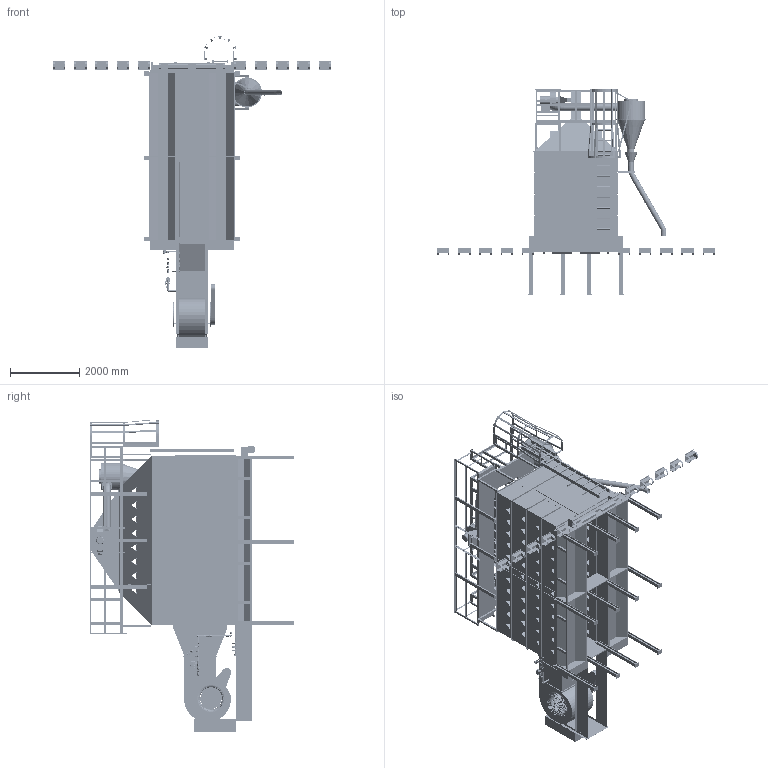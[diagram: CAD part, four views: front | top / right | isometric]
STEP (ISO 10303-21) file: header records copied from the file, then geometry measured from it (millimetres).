
FILE_DESCRIPTION(/* description */ ('PLAN AND ELEVATION VIEW FOR D1660 WITH ROOF & PRE-CLEANER'),/* implementation_level */ '2;1');
FILE_NAME(/* name */ 'C:\Engineering\Designs\Sales\Dryer\Workspaces\D16 All\D1660PC.stp',/* time_stamp */ '2025-01-06T16:40:27-06:00',/* author */ ('max.fleming'),/* organization */ (''),/* preprocessor_version */ 'ST-DEVELOPER v18.1',/* originating_system */ 'Autodesk Inventor 2022',/* authorisation */ '');
FILE_SCHEMA (('AUTOMOTIVE_DESIGN { 1 0 10303 214 3 1 1 }'));
Products named in the file (34): D1660PC; 16FT FRAME; 8FT LHRH FRAME; 16FT ROOF GF; 8FTRoof GF LHRH; Tongue; 16FT BODY TIER; LH Body; RH Body; LH Body_MIR6; RH Body_MIR6; Outside Splice; Standard Size End Plenum Panels; Ladder 2' section; Trans & Blower; Belt Shield; Screen Guard; LP Fuel; 6'' CROSS AUGER; Leg Kit-02; 16FT PRE CLEANER RH DIS; 16FT Pre Cleaner Grav Assy; Aspirator Blower CCW; Aspirator Blower; NEMA MOTOR 182T; 16FT FULL CATWALK W PRE CLEANER MOUNTS; Pre-Cleaner Cyclone; 16FT Aspirator 8in Pipe; 6in PIPE SLEEVE 11L; 6IN ELBOW; 6in PIPE 60L; PIPE SUPPORT; Ladder Cage; 6IN HANGER
Assembly tree (61 placements, depth 4):
  D1660PC
    16FT FRAME
      8FT LHRH FRAME  x2
    16FT ROOF GF
      8FTRoof GF LHRH  x2
    Tongue
    16FT BODY TIER  x4
      LH Body
      RH Body
      LH Body_MIR6
      RH Body_MIR6
      Outside Splice
    Leg Kit-02  x12
    Standard Size End Plenum Panels  x5
    Trans & Blower  x2
    Belt Shield  x2
    Screen Guard  x4
    LP Fuel  x2
    16FT PRE CLEANER RH DIS
      16FT Pre Cleaner Grav Assy
      Aspirator Blower CCW
        Aspirator Blower
        NEMA MOTOR 182T
      16FT FULL CATWALK W PRE CLEANER MOUNTS
      Pre-Cleaner Cyclone
      16FT Aspirator 8in Pipe
    6in PIPE SLEEVE 11L
    6in PIPE 60L  x2
    6IN ELBOW  x2
    6IN HANGER  x2
    PIPE SUPPORT
    Ladder Cage
  Ladder 2' section
  6'' CROSS AUGER
Bounding box: 8007.35 x 5901.14 x 9010.65 mm (x, y, z)
Volume: 30372615561.3 mm3; surface area: 454775333.8 mm2
Topology: 376 solids, 532 shells, 33643 faces, 87487 edges, 55711 vertices
Faces by surface type: plane 14910, cylinder 9981, bspline 3718, cone 3260, torus 1594, sphere 180
Full cylindrical faces by diameter (mm): 1 x10, 1.651 x6, 1.753 x6, 1.778 x12, 2.019 x4, 2.108 x2, 2.286 x24, 2.489 x2, 2.54 x4, 3.091 x288, 3.175 x4, 3.251 x20, 3.306 x288, 3.522 x2, 3.658 x28, 3.8 x16, 4 x384, 4.039 x20, 4.166 x256, 4.191 x4, 4.229 x2, 4.267 x2, 4.369 x8, 4.445 x8, 4.701 x592, 4.762 x16, 4.851 x8, 4.928 x32, 5.283 x2, 5.527 x20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
Entity records: 743356 total; most frequent: CARTESIAN_POINT 333682, ORIENTED_EDGE 85842, DIRECTION 76557, EDGE_CURVE 43061, VERTEX_POINT 27502, AXIS2_PLACEMENT_3D 26278, LINE 24001, VECTOR 24001
